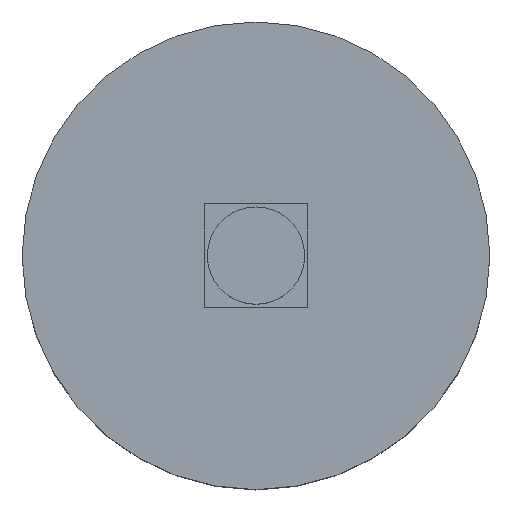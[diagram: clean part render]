
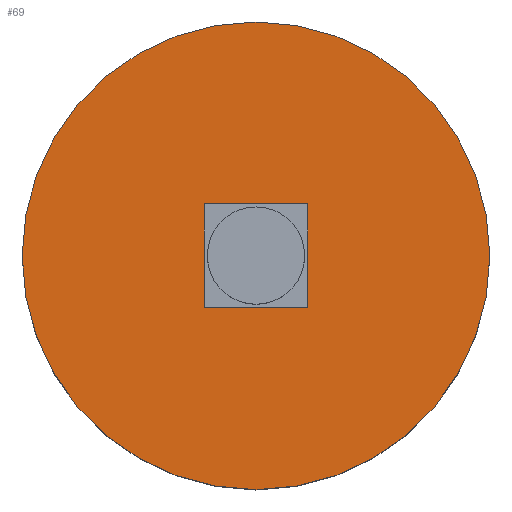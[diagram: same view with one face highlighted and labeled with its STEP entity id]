
A CAD part, top view. The second image highlights one B-rep face of the part: STEP entity #69.
In plain terms, the highlighted planar face has unit normal (0, 0, 1).
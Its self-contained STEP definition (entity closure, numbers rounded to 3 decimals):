
#12 = ORIENTED_EDGE ( 'NONE', *, *, #223, .T. ) ;
#29 = DIRECTION ( 'NONE',  ( 1., 0., 0. ) ) ;
#30 = DIRECTION ( 'NONE',  ( 0., 0., 1. ) ) ;
#33 = CARTESIAN_POINT ( 'NONE',  ( -7., 7., 30.4 ) ) ;
#35 = VERTEX_POINT ( 'NONE', #267 ) ;
#37 = VECTOR ( 'NONE', #290, 1000. ) ;
#47 = AXIS2_PLACEMENT_3D ( 'NONE', #352, #30, #29 ) ;
#53 = CIRCLE ( 'NONE', #341, 31.5 ) ;
#59 = VECTOR ( 'NONE', #309, 1000. ) ;
#61 = CARTESIAN_POINT ( 'NONE',  ( 0., 0., 30.4 ) ) ;
#69 = ADVANCED_FACE ( 'NONE', ( #264, #79 ), #372, .T. ) ;
#79 = FACE_OUTER_BOUND ( 'NONE', #111, .T. ) ;
#80 = CIRCLE ( 'NONE', #47, 31.5 ) ;
#82 = CARTESIAN_POINT ( 'NONE',  ( 7., 7., 30.4 ) ) ;
#87 = VERTEX_POINT ( 'NONE', #149 ) ;
#111 = EDGE_LOOP ( 'NONE', ( #361, #12 ) ) ;
#115 = DIRECTION ( 'NONE',  ( 1., 0., 0. ) ) ;
#117 = DIRECTION ( 'NONE',  ( 0., 0., 1. ) ) ;
#125 = CARTESIAN_POINT ( 'NONE',  ( -31.5, 0., 30.4 ) ) ;
#127 = EDGE_CURVE ( 'NONE', #389, #139, #371, .T. ) ;
#139 = VERTEX_POINT ( 'NONE', #82 ) ;
#149 = CARTESIAN_POINT ( 'NONE',  ( 31.5, 0., 30.4 ) ) ;
#150 = EDGE_CURVE ( 'NONE', #35, #389, #340, .T. ) ;
#152 = EDGE_LOOP ( 'NONE', ( #181, #233, #316, #298 ) ) ;
#178 = DIRECTION ( 'NONE',  ( 1., 0., 0. ) ) ;
#179 = CARTESIAN_POINT ( 'NONE',  ( -7., -7., 30.4 ) ) ;
#181 = ORIENTED_EDGE ( 'NONE', *, *, #127, .F. ) ;
#205 = VERTEX_POINT ( 'NONE', #410 ) ;
#212 = EDGE_CURVE ( 'NONE', #205, #35, #253, .T. ) ;
#218 = VERTEX_POINT ( 'NONE', #125 ) ;
#219 = CARTESIAN_POINT ( 'NONE',  ( -7., 7., 30.4 ) ) ;
#223 = EDGE_CURVE ( 'NONE', #87, #218, #80, .T. ) ;
#233 = ORIENTED_EDGE ( 'NONE', *, *, #150, .F. ) ;
#234 = VECTOR ( 'NONE', #178, 1000. ) ;
#250 = DIRECTION ( 'NONE',  ( 1., 0., 0. ) ) ;
#253 = LINE ( 'NONE', #33, #37 ) ;
#260 = EDGE_CURVE ( 'NONE', #218, #87, #53, .T. ) ;
#264 = FACE_BOUND ( 'NONE', #152, .T. ) ;
#267 = CARTESIAN_POINT ( 'NONE',  ( -7., -7., 30.4 ) ) ;
#285 = CARTESIAN_POINT ( 'NONE',  ( 0., 0., 30.4 ) ) ;
#290 = DIRECTION ( 'NONE',  ( 0., -1., 0. ) ) ;
#291 = EDGE_CURVE ( 'NONE', #139, #205, #357, .T. ) ;
#297 = CARTESIAN_POINT ( 'NONE',  ( 7., -7., 30.4 ) ) ;
#298 = ORIENTED_EDGE ( 'NONE', *, *, #291, .F. ) ;
#307 = AXIS2_PLACEMENT_3D ( 'NONE', #285, #117, #115 ) ;
#309 = DIRECTION ( 'NONE',  ( 0., 1., 0. ) ) ;
#311 = CARTESIAN_POINT ( 'NONE',  ( 7., 7., 30.4 ) ) ;
#316 = ORIENTED_EDGE ( 'NONE', *, *, #212, .F. ) ;
#327 = DIRECTION ( 'NONE',  ( -1., 0., 0. ) ) ;
#340 = LINE ( 'NONE', #179, #234 ) ;
#341 = AXIS2_PLACEMENT_3D ( 'NONE', #61, #379, #250 ) ;
#347 = VECTOR ( 'NONE', #327, 1000. ) ;
#352 = CARTESIAN_POINT ( 'NONE',  ( 0., 0., 30.4 ) ) ;
#357 = LINE ( 'NONE', #219, #347 ) ;
#361 = ORIENTED_EDGE ( 'NONE', *, *, #260, .T. ) ;
#371 = LINE ( 'NONE', #311, #59 ) ;
#372 = PLANE ( 'NONE',  #307 ) ;
#379 = DIRECTION ( 'NONE',  ( 0., 0., 1. ) ) ;
#389 = VERTEX_POINT ( 'NONE', #297 ) ;
#410 = CARTESIAN_POINT ( 'NONE',  ( -7., 7., 30.4 ) ) ;
